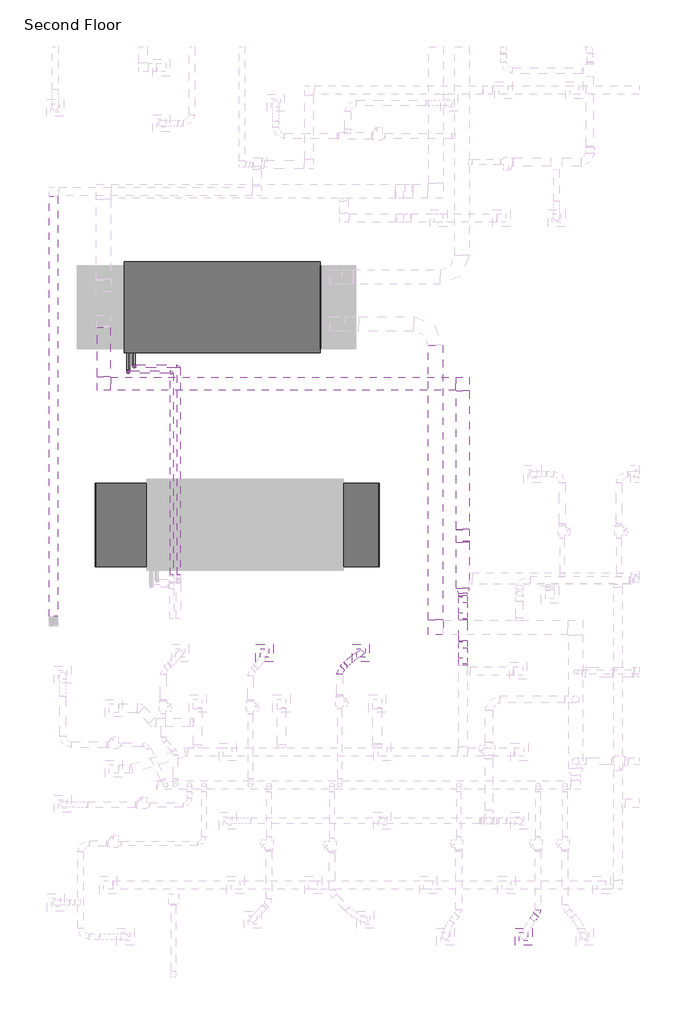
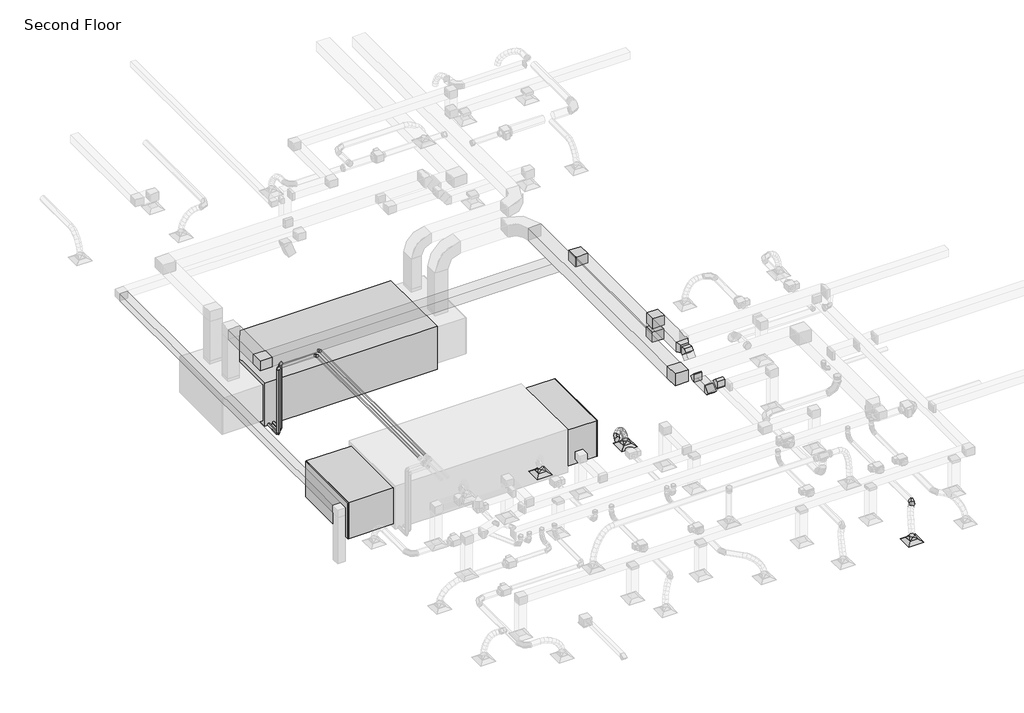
# One storey, part 7 of 44: 18 duct fittings, 17 duct segments, 8 pipe segments, 6 pipe fittings, 3 air terminals, 1 proxy.
"""IFC4 building model written with IfcOpenShell, lengths in millimetres."""

from ifc_helpers import new_model, si_unit, point, frame, frame_2d, origin, place, context, project, spatial, polyline, circle_curve, ellipse_curve, trimmed, segment, composite_curve, outline, extrude, transform, mapped, element, save
from ifc_brep_helpers import plane_surface, cylinder_surface, advanced_brep
from components import m_exhaust_grill_er_600_x_600_face_300_x_300_connection_ff221211, m_air_handling_unit_split_system_horizontal_300fd20e, m_rectangular_elbow_mitered_standard_b81e202c, m_rectangular_elbow_mitered_standard_083ec54f, m_rectangular_elbow_mitered_standard_5eef5ae8, m_rectangular_elbow_mitered_standard_115de672, m_rectangular_endcap_standard_3b5f437e, m_rectangular_takeoff_standard_6cf4a7e6, m_rectangular_transition_angle_45_degree_7c23efb6, m_rectangular_to_round_transition_angle_45_degree_60daae35, m_round_elbow_1_5_d_f3829448, m_round_elbow_1_5_d_143daf02, m_elbow_generic_standard_09f08a26

model = new_model("IFC4")

# Units and contexts
model_context = context("Model", 3, world=origin())
ifc_project = project(units=[si_unit("LENGTHUNIT", "METRE", prefix="MILLI")], contexts=[model_context])

# Site, building, storey
site = spatial("IfcSite", under=ifc_project)
building = spatial("IfcBuilding", under=site)
storey = spatial("IfcBuildingStorey", under=building, Name="Second Floor", Elevation=4570.0)

# Air terminals
placement = place(None, origin())
m_exhaust_grill_er_600_x_600_face_300_x_300_connection_shape = m_exhaust_grill_er_600_x_600_face_300_x_300_connection_ff221211(model_context)
element("IfcAirTerminal", 1, ObjectType="M_Supply Diffuser : SD-600 x 600 Face 300 x 300 Connection", at=placement, inside=storey, context=model_context, shape_type="MappedRepresentation", body=[
    mapped(m_exhaust_grill_er_600_x_600_face_300_x_300_connection_shape, transform((-29887.2412512, 10855.5728123, 7250.0), x_axis=(1.0, 0.0, 0.0), y_axis=(0.0, 1.0, 0.0), z_axis=(0.0, 0.0, 1.0))),
])
element("IfcAirTerminal", 2, ObjectType="M_Supply Diffuser : SD-600 x 600 Face 300 x 300 Connection", at=placement, inside=storey, context=model_context, shape_type="MappedRepresentation", body=[
    mapped(m_exhaust_grill_er_600_x_600_face_300_x_300_connection_shape, transform((-38933.7649638, 20757.586497, 7250.0), x_axis=(1.0, 0.0, 0.0), y_axis=(0.0, 1.0, 0.0), z_axis=(0.0, 0.0, 1.0))),
])
element("IfcAirTerminal", 3, ObjectType="M_Supply Diffuser : SD-600 x 600 Face 300 x 300 Connection", at=placement, inside=storey, context=model_context, shape_type="MappedRepresentation", body=[
    mapped(m_exhaust_grill_er_600_x_600_face_300_x_300_connection_shape, transform((-35569.287523, 20757.586497, 7250.0), x_axis=(1.0, 0.0, 0.0), y_axis=(0.0, 1.0, 0.0), z_axis=(0.0, 0.0, 1.0))),
])

# Proxy
m_air_handling_unit_split_system_horizontal_shape = m_air_handling_unit_split_system_horizontal_300fd20e(model_context)
element("IfcBuildingElementProxy", 4, Name="M_Air Handling Unit - Split System - Horizontal : 63300000 J", ObjectType="M_Air Handling Unit - Split System - Horizontal : 63300000 J", at=placement, inside=storey, context=model_context, shape_type="MappedRepresentation", body=[
    mapped(m_air_handling_unit_split_system_horizontal_shape, transform((-43838.6289987, 31241.3199771, 4570.0), x_axis=(1.0, 0.0, 0.0), y_axis=(0.0, 1.0, 0.0), z_axis=(0.0, 0.0, 1.0))),
])

# Duct fittings
m_rectangular_elbow_mitered_standard_shape = m_rectangular_elbow_mitered_standard_b81e202c(model_context)
element("IfcDuctFitting", 5, ObjectType="M_Rectangular Elbow - Mitered : Standard", at=placement, inside=storey, context=model_context, shape_type="MappedRepresentation", body=[
    mapped(m_rectangular_elbow_mitered_standard_shape, transform((-32006.4608066, 20420.6323311, 8820.0), x_axis=(0.0, 1.0, 0.0), y_axis=(0.0, 0.0, -1.0), z_axis=(-1.0, 0.0, 0.0))),
])
element("IfcDuctFitting", 6, ObjectType="M_Rectangular Elbow - Mitered : Standard", at=placement, inside=storey, context=model_context, shape_type="MappedRepresentation", body=[
    mapped(m_rectangular_elbow_mitered_standard_shape, transform((-32006.4608066, 21099.4548411, 8141.1774901), x_axis=(0.0, 0.7071067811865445, -0.7071067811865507), y_axis=(0.0, 0.7071067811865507, 0.7071067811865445), z_axis=(1.0, 0.0, 0.0))),
])
element("IfcDuctFitting", 7, ObjectType="M_Rectangular Elbow - Mitered : Standard", at=placement, inside=storey, context=model_context, shape_type="MappedRepresentation", body=[
    mapped(m_rectangular_elbow_mitered_standard_shape, transform((-32006.4608066, 21999.4548411, 8141.1774901), x_axis=(0.0, 1.0, 0.0), y_axis=(0.0, 0.0, 1.0), z_axis=(1.0, 0.0, 0.0))),
])
element("IfcDuctFitting", 8, ObjectType="M_Rectangular Elbow - Mitered : Standard", at=placement, inside=storey, context=model_context, shape_type="MappedRepresentation", body=[
    mapped(m_rectangular_elbow_mitered_standard_shape, transform((-32006.4608066, 22678.277351, 8820.0), x_axis=(0.0, 0.70710678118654, 0.7071067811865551), y_axis=(0.0, 0.7071067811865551, -0.70710678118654), z_axis=(-1.0, 0.0, 0.0))),
])
m_rectangular_elbow_mitered_standard_2_shape = m_rectangular_elbow_mitered_standard_083ec54f(model_context)
element("IfcDuctFitting", 9, ObjectType="M_Rectangular Elbow - Mitered : Standard", at=placement, inside=storey, context=model_context, shape_type="MappedRepresentation", body=[
    mapped(m_rectangular_elbow_mitered_standard_2_shape, transform((-32968.6463278, 21646.9458907, 8770.0), x_axis=(0.0, -1.0, 0.0), y_axis=(1.0, 0.0, 0.0), z_axis=(0.0, 0.0, 1.0))),
])
m_rectangular_elbow_mitered_standard_3_shape = m_rectangular_elbow_mitered_standard_5eef5ae8(model_context)
element("IfcDuctFitting", 10, ObjectType="M_Rectangular Elbow - Mitered : Standard", at=placement, inside=storey, context=model_context, shape_type="MappedRepresentation", body=[
    mapped(m_rectangular_elbow_mitered_standard_3_shape, transform((-32006.4608066, 24857.9226294, 8820.0), x_axis=(0.0, 1.0, 0.0), y_axis=(0.0, 0.0, -1.0), z_axis=(-1.0, 0.0, 0.0))),
])
element("IfcDuctFitting", 11, ObjectType="M_Rectangular Elbow - Mitered : Standard", at=placement, inside=storey, context=model_context, shape_type="MappedRepresentation", body=[
    mapped(m_rectangular_elbow_mitered_standard_3_shape, transform((-32006.4608066, 24857.9226294, 8220.0), x_axis=(0.0, 0.0, -1.0), y_axis=(0.0, 1.0, 0.0), z_axis=(1.0, 0.0, 0.0))),
])
m_rectangular_elbow_mitered_standard_4_shape = m_rectangular_elbow_mitered_standard_115de672(model_context)
element("IfcDuctFitting", 12, ObjectType="M_Rectangular Elbow - Mitered : Standard", at=placement, inside=storey, context=model_context, shape_type="MappedRepresentation", body=[
    mapped(m_rectangular_elbow_mitered_standard_4_shape, transform((-32006.4608066, 30157.9226294, 8220.0), x_axis=(0.0, 1.0, 0.0), y_axis=(-1.0, 0.0, 0.0), z_axis=(0.0, 0.0, 1.0))),
])
element("IfcDuctFitting", 13, ObjectType="M_Rectangular Elbow - Mitered : Standard", at=placement, inside=storey, context=model_context, shape_type="MappedRepresentation", body=[
    mapped(m_rectangular_elbow_mitered_standard_4_shape, transform((-44551.1307923, 30157.9226294, 8220.0), x_axis=(0.0, -1.0, 0.0), y_axis=(1.0, 0.0, 0.0), z_axis=(0.0, 0.0, 1.0))),
])
m_rectangular_endcap_standard_shape = m_rectangular_endcap_standard_3b5f437e(model_context)
element("IfcDuctFitting", 14, ObjectType="M_Rectangular Endcap : Standard", at=placement, inside=storey, context=model_context, shape_type="MappedRepresentation", body=[
    mapped(m_rectangular_endcap_standard_shape, transform((-34956.7539987, 25228.8199771, 5470.0), x_axis=(1.0, 0.0, 0.0), y_axis=(0.0, 1.0, 0.0), z_axis=(0.0, 0.0, 1.0))),
])
element("IfcDuctFitting", 15, ObjectType="M_Rectangular Endcap : Standard", at=placement, inside=storey, context=model_context, shape_type="MappedRepresentation", body=[
    mapped(m_rectangular_endcap_standard_shape, transform((-44818.6289987, 25228.8199771, 5470.0), x_axis=(-1.0, 0.0, 0.0), y_axis=(0.0, -1.0, 0.0), z_axis=(0.0, 0.0, 1.0))),
])
m_rectangular_takeoff_standard_shape = m_rectangular_takeoff_standard_6cf4a7e6(model_context)
element("IfcDuctFitting", 16, ObjectType="M_Rectangular Takeoff : Standard", at=placement, inside=storey, context=model_context, shape_type="MappedRepresentation", body=[
    mapped(m_rectangular_takeoff_standard_shape, transform((-43937.5515014, 25228.8199771, 4720.0), x_axis=(0.0, 0.0, -1.0), y_axis=(0.0, 1.0, 0.0), z_axis=(1.0, 0.0, 0.0))),
])
m_rectangular_transition_angle_45_degree_shape = m_rectangular_transition_angle_45_degree_7c23efb6(model_context)
element("IfcDuctFitting", 17, ObjectType="M_Rectangular Transition - Angle : 45 Degree", at=placement, inside=storey, context=model_context, shape_type="MappedRepresentation", body=[
    mapped(m_rectangular_transition_angle_45_degree_shape, transform((-32006.4608066, 23022.9226294, 8820.0), x_axis=(0.0, -1.0, 0.0), y_axis=(1.0, 0.0, 0.0), z_axis=(0.0, 0.0, 1.0))),
])
m_rectangular_to_round_transition_angle_45_degree_shape = m_rectangular_to_round_transition_angle_45_degree_60daae35(model_context)
element("IfcDuctFitting", 18, ObjectType="M_Rectangular to Round Transition - Angle : 45 Degree", at=placement, inside=storey, context=model_context, shape_type="MappedRepresentation", body=[
    mapped(m_rectangular_to_round_transition_angle_45_degree_shape, transform((-29887.2412512, 10855.5728123, 7351.6), x_axis=(0.0, 0.0, 1.0), y_axis=(1.0, 0.0, 0.0), z_axis=(0.0, 1.0, 0.0))),
])
element("IfcDuctFitting", 19, ObjectType="M_Rectangular to Round Transition - Angle : 45 Degree", at=placement, inside=storey, context=model_context, shape_type="MappedRepresentation", body=[
    mapped(m_rectangular_to_round_transition_angle_45_degree_shape, transform((-35569.287523, 20757.586497, 7351.6), x_axis=(0.0, 0.0, 1.0), y_axis=(1.0, 0.0, 0.0), z_axis=(0.0, 1.0, 0.0))),
])
element("IfcDuctFitting", 20, ObjectType="M_Rectangular to Round Transition - Angle : 45 Degree", at=placement, inside=storey, context=model_context, shape_type="MappedRepresentation", body=[
    mapped(m_rectangular_to_round_transition_angle_45_degree_shape, transform((-38933.7649638, 20757.586497, 7351.6), x_axis=(0.0, 0.0, 1.0), y_axis=(1.0, 0.0, 0.0), z_axis=(0.0, 1.0, 0.0))),
])
m_round_elbow_1_5_d_shape = m_round_elbow_1_5_d_f3829448(model_context)
element("IfcDuctFitting", 21, ObjectType="M_Round Elbow : 1.5 D", at=placement, inside=storey, context=model_context, shape_type="MappedRepresentation", body=[
    mapped(m_round_elbow_1_5_d_shape, transform((-36309.0180147, 20148.2342251, 8189.1), x_axis=(-0.7071067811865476, -0.7071067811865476, 0.0), y_axis=(0.7071067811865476, -0.7071067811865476, 0.0), z_axis=(0.0, 0.0, 1.0))),
])
m_round_elbow_1_5_d_2_shape = m_round_elbow_1_5_d_143daf02(model_context)
element("IfcDuctFitting", 22, ObjectType="M_Round Elbow : 1.5 D", at=placement, inside=storey, context=model_context, shape_type="MappedRepresentation", body=[
    mapped(m_round_elbow_1_5_d_2_shape, transform((-29388.5682282, 11691.8174916, 8189.1), x_axis=(0.6062629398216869, 0.7952642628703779, 0.0), y_axis=(-0.7952642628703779, 0.6062629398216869, 0.0), z_axis=(0.0, 0.0, 1.0))),
])

# Duct segments
element("IfcDuctSegment", 23, ObjectType="Flex - Round", at=placement, inside=storey, context=model_context, shape_type="AdvancedBrep", body=[
    advanced_brep(
    [(-36165.2524714, 20433.3458653, 8189.1), (-36107.2801338, 20350.6291315, 8090.1194462), (-36028.5194953, 20287.3866476, 8189.1), (-36086.4918328, 20370.1033814, 8288.0805538), (-36074.7350557, 20518.1415762, 8171.2528775), (-36027.6904004, 20425.1879109, 8074.426911), (-35941.7835558, 20368.6399135, 8171.9984629), (-35988.8282111, 20461.5935788, 8268.8244293), (-35630.6007373, 20836.5666738, 7470.630968), (-35491.0034706, 20818.6170502, 7484.4300314), (-35507.9743087, 20678.6063202, 7473.9903883), (-35647.5715753, 20696.5559438, 7460.1913249), (-35980.9364398, 20596.6706151, 8120.7614196), (-35952.9714755, 20487.7432622, 8034.2059823), (-35854.1298632, 20442.0243677, 8124.8147952), (-35882.0948276, 20550.9517206, 8211.3702325), (-35890.5947587, 20665.7056281, 8044.4130577), (-35876.6696116, 20546.0496839, 7969.7227643), (-35767.3988648, 20508.3002608, 8051.5178456), (-35781.3240119, 20627.9562049, 8126.208139), (-35807.6564266, 20724.4503119, 7947.9587637), (-35804.20186, 20597.3781233, 7885.4453784), (-35686.2227288, 20565.7967925, 7957.1129221), (-35689.6772955, 20692.868981, 8019.6263074), (-35736.1385506, 20771.9546572, 7836.9448154), (-35740.8131085, 20639.4828573, 7787.0499006), (-35615.1629306, 20612.9968688, 7846.810027), (-35610.4883727, 20745.4686687, 7896.7049418), (-35680.1343486, 20807.162247, 7716.9220912), (-35691.2861917, 20670.6184384, 7680.9086601), (-35558.7048346, 20648.4898034, 7725.8145618), (-35547.5529915, 20785.0336121, 7761.8279929), (-35643.7250574, 20828.9922846, 7593.549584), (-35659.7161456, 20689.5469939, 7573.933885), (-35521.3457866, 20670.8892897, 7599.2238136), (-35505.3546984, 20810.3345804, 7618.8395126)],
    [
        (0, 1, circle_curve(frame((-36096.8859833, 20360.3662565, 8189.1), z_axis=(-0.7223562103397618, -0.676695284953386, 0.14242540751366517), x_axis=(-0.6836648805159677, 0.7297960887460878, 0.0)), 100.0)),
        (1, 2, circle_curve(frame((-36096.8859833, 20360.3662565, 8189.1), z_axis=(-0.7223562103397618, -0.676695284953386, 0.14242540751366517), x_axis=(-0.6836648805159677, 0.7297960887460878, 0.0)), 100.0)),
        (2, 3, circle_curve(frame((-36096.8859833, 20360.3662565, 8189.1), z_axis=(-0.7223562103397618, -0.676695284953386, 0.14242540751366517), x_axis=(-0.6836648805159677, 0.7297960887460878, 0.0)), 100.0)),
        (3, 0, circle_curve(frame((-36096.8859833, 20360.3662565, 8189.1), z_axis=(-0.7223562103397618, -0.676695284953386, 0.14242540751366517), x_axis=(-0.6836648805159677, 0.7297960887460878, 0.0)), 100.0)),
        (0, 4),
        (4, 5, ellipse_curve(frame((-36008.2593058, 20443.3907449, 8171.6256702), z_axis=(-0.7213790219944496, -0.640203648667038, 0.26410527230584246), x_axis=(-0.05362156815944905, -0.3285789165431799, -0.9429531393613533)), 100.8134935, 100.0)),
        (5, 1),
        (5, 6, ellipse_curve(frame((-36008.2593058, 20443.3907449, 8171.6256702), z_axis=(-0.7213790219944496, -0.640203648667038, 0.26410527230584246), x_axis=(-0.05362156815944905, -0.3285789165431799, -0.9429531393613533)), 100.8134935, 100.0)),
        (6, 2),
        (6, 7, ellipse_curve(frame((-36008.2593058, 20443.3907449, 8171.6256702), z_axis=(-0.7213790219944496, -0.640203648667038, 0.26410527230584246), x_axis=(-0.05362156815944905, -0.3285789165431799, -0.9429531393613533)), 100.8134935, 100.0)),
        (7, 3),
        (7, 4, ellipse_curve(frame((-36008.2593058, 20443.3907449, 8171.6256702), z_axis=(-0.7213790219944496, -0.640203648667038, 0.26410527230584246), x_axis=(-0.05362156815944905, -0.3285789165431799, -0.9429531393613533)), 100.8134935, 100.0)),
        (8, 9, circle_curve(frame((-35569.287523, 20757.586497, 7472.3106781), z_axis=(0.10597023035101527, 0.061158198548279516, -0.992486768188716), x_axis=(-0.6131321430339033, 0.7898017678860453, -0.01679710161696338)), 100.0)),
        (9, 10, circle_curve(frame((-35569.287523, 20757.586497, 7472.3106781), z_axis=(0.10597023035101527, 0.061158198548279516, -0.992486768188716), x_axis=(-0.6131321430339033, 0.7898017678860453, -0.01679710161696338)), 100.0)),
        (10, 11, circle_curve(frame((-35569.287523, 20757.586497, 7472.3106781), z_axis=(0.10597023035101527, 0.061158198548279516, -0.992486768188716), x_axis=(-0.6131321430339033, 0.7898017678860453, -0.01679710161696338)), 100.0)),
        (11, 8, circle_curve(frame((-35569.287523, 20757.586497, 7472.3106781), z_axis=(0.10597023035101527, 0.061158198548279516, -0.992486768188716), x_axis=(-0.6131321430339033, 0.7898017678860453, -0.01679710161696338)), 100.0)),
        (4, 12),
        (12, 13, ellipse_curve(frame((-35917.5331515, 20519.3474914, 8122.7881074), z_axis=(-0.6877674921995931, -0.5515845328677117, 0.4719431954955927), x_axis=(-0.24153055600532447, -0.43920723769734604, -0.8653091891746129)), 100.5208679, 100.0)),
        (13, 5),
        (13, 14, ellipse_curve(frame((-35917.5331515, 20519.3474914, 8122.7881074), z_axis=(-0.6877674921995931, -0.5515845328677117, 0.4719431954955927), x_axis=(-0.24153055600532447, -0.43920723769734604, -0.8653091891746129)), 100.5208679, 100.0)),
        (14, 6),
        (14, 15, ellipse_curve(frame((-35917.5331515, 20519.3474914, 8122.7881074), z_axis=(-0.6877674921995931, -0.5515845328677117, 0.4719431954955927), x_axis=(-0.24153055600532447, -0.43920723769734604, -0.8653091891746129)), 100.5208679, 100.0)),
        (15, 7),
        (15, 12, ellipse_curve(frame((-35917.5331515, 20519.3474914, 8122.7881074), z_axis=(-0.6877674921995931, -0.5515845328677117, 0.4719431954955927), x_axis=(-0.24153055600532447, -0.43920723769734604, -0.8653091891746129)), 100.5208679, 100.0)),
        (12, 16),
        (16, 17, ellipse_curve(frame((-35828.9968118, 20587.0029444, 8047.9654516), z_axis=(-0.628056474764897, -0.4633396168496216, 0.6251891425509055), x_axis=(-0.39829123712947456, -0.4987947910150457, -0.769784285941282)), 100.363452, 100.0)),
        (17, 13),
        (17, 18, ellipse_curve(frame((-35828.9968118, 20587.0029444, 8047.9654516), z_axis=(-0.628056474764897, -0.4633396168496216, 0.6251891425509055), x_axis=(-0.39829123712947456, -0.4987947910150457, -0.769784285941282)), 100.363452, 100.0)),
        (18, 14),
        (18, 19, ellipse_curve(frame((-35828.9968118, 20587.0029444, 8047.9654516), z_axis=(-0.628056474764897, -0.4633396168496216, 0.6251891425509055), x_axis=(-0.39829123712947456, -0.4987947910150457, -0.769784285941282)), 100.363452, 100.0)),
        (19, 15),
        (19, 16, ellipse_curve(frame((-35828.9968118, 20587.0029444, 8047.9654516), z_axis=(-0.628056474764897, -0.4633396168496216, 0.6251891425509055), x_axis=(-0.39829123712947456, -0.4987947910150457, -0.769784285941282)), 100.363452, 100.0)),
        (16, 20),
        (20, 21, ellipse_curve(frame((-35746.9395777, 20645.1235522, 7952.5358429), z_axis=(-0.5524071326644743, -0.3800054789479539, 0.7419179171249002), x_axis=(-0.533175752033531, -0.5230887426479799, -0.6649073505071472)), 100.29928, 100.0)),
        (21, 17),
        (21, 22, ellipse_curve(frame((-35746.9395777, 20645.1235522, 7952.5358429), z_axis=(-0.5524071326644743, -0.3800054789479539, 0.7419179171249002), x_axis=(-0.533175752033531, -0.5230887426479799, -0.6649073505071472)), 100.29928, 100.0)),
        (22, 18),
        (22, 23, ellipse_curve(frame((-35746.9395777, 20645.1235522, 7952.5358429), z_axis=(-0.5524071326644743, -0.3800054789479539, 0.7419179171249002), x_axis=(-0.533175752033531, -0.5230887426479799, -0.6649073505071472)), 100.29928, 100.0)),
        (23, 19),
        (23, 20, ellipse_curve(frame((-35746.9395777, 20645.1235522, 7952.5358429), z_axis=(-0.5524071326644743, -0.3800054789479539, 0.7419179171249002), x_axis=(-0.533175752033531, -0.5230887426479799, -0.6649073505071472)), 100.29928, 100.0)),
        (20, 24),
        (24, 25, ellipse_curve(frame((-35675.6507406, 20692.475763, 7841.8774212), z_axis=(-0.46051281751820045, -0.2985966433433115, 0.83592343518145), x_axis=(-0.6511971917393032, -0.526314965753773, -0.5467492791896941)), 100.301743, 100.0)),
        (25, 21),
        (25, 26, ellipse_curve(frame((-35675.6507406, 20692.475763, 7841.8774212), z_axis=(-0.46051281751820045, -0.2985966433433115, 0.83592343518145), x_axis=(-0.6511971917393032, -0.526314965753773, -0.5467492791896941)), 100.301743, 100.0)),
        (26, 22),
        (26, 27, ellipse_curve(frame((-35675.6507406, 20692.475763, 7841.8774212), z_axis=(-0.46051281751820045, -0.2985966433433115, 0.83592343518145), x_axis=(-0.6511971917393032, -0.526314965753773, -0.5467492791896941)), 100.301743, 100.0)),
        (27, 23),
        (27, 24, ellipse_curve(frame((-35675.6507406, 20692.475763, 7841.8774212), z_axis=(-0.46051281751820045, -0.2985966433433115, 0.83592343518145), x_axis=(-0.6511971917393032, -0.526314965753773, -0.5467492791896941)), 100.301743, 100.0)),
        (24, 28),
        (28, 29, ellipse_curve(frame((-35619.4195916, 20727.8260252, 7721.3683265), z_axis=(-0.345139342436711, -0.21290166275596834, 0.914085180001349), x_axis=(-0.7520789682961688, -0.5199059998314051, -0.40506169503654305)), 100.3732416, 100.0)),
        (29, 25),
        (29, 30, ellipse_curve(frame((-35619.4195916, 20727.8260252, 7721.3683265), z_axis=(-0.345139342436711, -0.21290166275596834, 0.914085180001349), x_axis=(-0.7520789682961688, -0.5199059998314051, -0.40506169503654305)), 100.3732416, 100.0)),
        (30, 26),
        (30, 31, ellipse_curve(frame((-35619.4195916, 20727.8260252, 7721.3683265), z_axis=(-0.345139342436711, -0.21290166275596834, 0.914085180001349), x_axis=(-0.7520789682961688, -0.5199059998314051, -0.40506169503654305)), 100.3732416, 100.0)),
        (31, 27),
        (31, 28, ellipse_curve(frame((-35619.4195916, 20727.8260252, 7721.3683265), z_axis=(-0.345139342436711, -0.21290166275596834, 0.914085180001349), x_axis=(-0.7520789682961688, -0.5199059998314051, -0.40506169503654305)), 100.3732416, 100.0)),
        (28, 32),
        (32, 33, ellipse_curve(frame((-35582.535422, 20749.9407871, 7596.3866988), z_axis=(-0.1935678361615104, -0.11486223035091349, 0.9743398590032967), x_axis=(-0.8305750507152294, -0.5094050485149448, -0.2250590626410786)), 100.547318, 100.0)),
        (33, 29),
        (33, 34, ellipse_curve(frame((-35582.535422, 20749.9407871, 7596.3866988), z_axis=(-0.1935678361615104, -0.11486223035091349, 0.9743398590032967), x_axis=(-0.8305750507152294, -0.5094050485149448, -0.2250590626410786)), 100.547318, 100.0)),
        (34, 30),
        (34, 35, ellipse_curve(frame((-35582.535422, 20749.9407871, 7596.3866988), z_axis=(-0.1935678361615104, -0.11486223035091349, 0.9743398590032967), x_axis=(-0.8305750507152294, -0.5094050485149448, -0.2250590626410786)), 100.547318, 100.0)),
        (35, 31),
        (35, 32, ellipse_curve(frame((-35582.535422, 20749.9407871, 7596.3866988), z_axis=(-0.1935678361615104, -0.11486223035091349, 0.9743398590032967), x_axis=(-0.8305750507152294, -0.5094050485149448, -0.2250590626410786)), 100.547318, 100.0)),
        (32, 8),
        (11, 33),
        (10, 34),
        (9, 35),
    ],
    [
        plane_surface(frame((-36096.8859833, 20380.9622146, 8286.9560499), z_axis=(-0.722356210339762, -0.6766952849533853, 0.14242540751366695), x_axis=(0.6915211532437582, -0.7068692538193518, 0.1487761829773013))),
        cylinder_surface(frame((-36096.8859833, 20360.3662565, 8189.1), z_axis=(-0.7223562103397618, -0.676695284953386, 0.14242540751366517), x_axis=(-0.6836648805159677, 0.7297960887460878, 0.0)), 100.0),
        plane_surface(frame((-35569.287523, 20857.3971776, 7478.4611293), z_axis=(0.1059702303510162, 0.06115819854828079, -0.992486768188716), x_axis=(0.9943693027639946, -0.0065176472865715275, 0.1057696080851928))),
        cylinder_surface(frame((-36008.2593058, 20443.3907449, 8171.6256702), z_axis=(-0.7087597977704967, -0.5933800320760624, 0.38152285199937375), x_axis=(-0.6462059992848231, 0.7630397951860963, -0.013714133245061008)), 100.0),
        cylinder_surface(frame((-35917.5331515, 20519.3474914, 8122.7881074), z_axis=(-0.6596475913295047, -0.5040727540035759, 0.5574726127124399), x_axis=(-0.6227032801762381, 0.7818888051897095, -0.029841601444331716)), 100.0),
        cylinder_surface(frame((-35828.9968118, 20587.0029444, 8047.9654516), z_axis=(-0.5919165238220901, -0.41925064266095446, 0.6883776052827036), x_axis=(-0.6099460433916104, 0.7913002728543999, -0.04254059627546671)), 100.0),
        cylinder_surface(frame((-35746.9395777, 20645.1235522, 7952.5358429), z_axis=(-0.5096011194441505, -0.3384925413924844, 0.7910306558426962), x_axis=(-0.6047771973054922, 0.7948559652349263, -0.04948268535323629)), 100.0),
        cylinder_surface(frame((-35675.6507406, 20692.475763, 7841.8774212), z_axis=(-0.40865374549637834, -0.25690417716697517, 0.8757867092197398), x_axis=(-0.6049590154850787, 0.7947380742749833, -0.049152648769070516)), 100.0),
        cylinder_surface(frame((-35619.4195916, 20727.8260252, 7721.3683265), z_axis=(-0.2790581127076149, -0.16731578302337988, 0.9455855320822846), x_axis=(-0.6086420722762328, 0.7924661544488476, -0.03939824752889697)), 100.0),
        cylinder_surface(frame((-35582.535422, 20749.9407871, 7596.3866988), z_axis=(-0.10597023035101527, -0.061158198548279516, 0.992486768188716), x_axis=(-0.6131321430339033, 0.7898017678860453, -0.01679710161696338)), 100.0),
    ],
    [
        (0, [[1, 2, 3, 4]]),
        (1, [[-1, 5, 6, 7]]),
        (1, [[-2, -7, 8, 9]]),
        (1, [[-3, -9, 10, 11]]),
        (1, [[-4, -11, 12, -5]]),
        (2, [[13, 14, 15, 16]]),
        (3, [[-6, 17, 18, 19]]),
        (3, [[-8, -19, 20, 21]]),
        (3, [[-10, -21, 22, 23]]),
        (3, [[-12, -23, 24, -17]]),
        (4, [[-18, 25, 26, 27]]),
        (4, [[-20, -27, 28, 29]]),
        (4, [[-22, -29, 30, 31]]),
        (4, [[-24, -31, 32, -25]]),
        (5, [[-26, 33, 34, 35]]),
        (5, [[-28, -35, 36, 37]]),
        (5, [[-30, -37, 38, 39]]),
        (5, [[-32, -39, 40, -33]]),
        (6, [[-34, 41, 42, 43]]),
        (6, [[-36, -43, 44, 45]]),
        (6, [[-38, -45, 46, 47]]),
        (6, [[-40, -47, 48, -41]]),
        (7, [[-42, 49, 50, 51]]),
        (7, [[-44, -51, 52, 53]]),
        (7, [[-46, -53, 54, 55]]),
        (7, [[-48, -55, 56, -49]]),
        (8, [[-50, 57, 58, 59]]),
        (8, [[-52, -59, 60, 61]]),
        (8, [[-54, -61, 62, 63]]),
        (8, [[-56, -63, 64, -57]]),
        (9, [[-58, 65, -16, 66]]),
        (9, [[-60, -66, -15, 67]]),
        (9, [[-62, -67, -14, 68]]),
        (9, [[-64, -68, -13, -65]]),
    ],
),
])
element("IfcDuctSegment", 24, ObjectType="Mitered Elbows / Taps", at=placement, inside=storey, context=model_context, shape_type="SweptSolid", body=[
    extrude(outline(polyline([(-36176.7539987, 23778.8199771), (-36176.7539987, 26678.8199771), (-34956.7539987, 26678.8199771), (-34956.7539987, 23778.8199771), (-36176.7539987, 23778.8199771)])), frame((0.0, 0.0, 4720.0), z_axis=(0.0, 0.0, 1.0), x_axis=(1.0, 0.0, 0.0)), (0.0, 0.0, 1.0), 1500.0),
])
element("IfcDuctSegment", 25, ObjectType="Mitered Elbows / Taps", at=placement, inside=storey, context=model_context, shape_type="SweptSolid", body=[
    extrude(outline(polyline([(-31781.4608066, 23022.9226294), (-32231.4608066, 23022.9226294), (-32231.4608066, 24632.9226294), (-31781.4608066, 24632.9226294), (-31781.4608066, 23022.9226294)])), frame((0.0, 0.0, 8620.0), z_axis=(0.0, 0.0, 1.0), x_axis=(1.0, 0.0, 0.0)), (0.0, 0.0, 1.0), 400.0),
])
element("IfcDuctSegment", 26, ObjectType="Mitered Elbows / Taps", at=placement, inside=storey, context=model_context, shape_type="SweptSolid", body=[
    extrude(outline(polyline([(0.0, -300.0), (0.0, 0.0), (785.7359314, 0.0), (785.7359314, -300.0), (0.0, -300.0)])), frame((-32156.4608066, 20376.1779663, 8652.3223305), z_axis=(0.0, 0.7071067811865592, 0.7071067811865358), x_axis=(0.0, 0.7071067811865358, -0.7071067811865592)), (0.0, 0.0, 1.0), 300.0),
])
element("IfcDuctSegment", 27, ObjectType="Mitered Elbows / Taps", at=placement, inside=storey, context=model_context, shape_type="SweptSolid", body=[
    extrude(outline(polyline([(-31856.4608066, 21186.5868754), (-32156.4608066, 21186.5868754), (-32156.4608066, 21912.3228067), (-31856.4608066, 21912.3228067), (-31856.4608066, 21186.5868754)])), frame((0.0, 0.0, 7991.1774901), z_axis=(0.0, 0.0, 1.0), x_axis=(1.0, 0.0, 0.0)), (0.0, 0.0, 1.0), 300.0),
])
element("IfcDuctSegment", 28, ObjectType="Mitered Elbows / Taps", at=placement, inside=storey, context=model_context, shape_type="SweptSolid", body=[
    extrude(outline(polyline([(-150.0, 362.1320344), (150.0, 362.1320344), (150.0, 62.1320344), (-150.0, 62.1320344), (-150.0, 362.1320344)])), frame((-32006.4608066, 21911.0664934, 8352.7891424), z_axis=(0.0, 0.707106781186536, 0.707106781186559), x_axis=(1.0, 0.0, 0.0)), (0.0, 0.0, 1.0), 785.7359313),
])
element("IfcDuctSegment", 29, ObjectType="Mitered Elbows / Taps", at=placement, inside=storey, context=model_context, shape_type="SweptSolid", body=[
    extrude(outline(polyline([(-32156.4608066, 22841.8566122), (-31856.4608066, 22841.8566122), (-31856.4608066, 22765.4093854), (-32156.4608066, 22765.4093854), (-32156.4608066, 22841.8566122)])), frame((0.0, 0.0, 8670.0), z_axis=(0.0, 0.0, 1.0), x_axis=(1.0, 0.0, 0.0)), (0.0, 0.0, 1.0), 300.0),
])
element("IfcDuctSegment", 30, ObjectType="Mitered Elbows / Taps", at=placement, inside=storey, context=model_context, shape_type="SweptSolid", body=[
    extrude(outline(polyline([(-31781.4608066, 25082.9226294), (-32231.4608066, 25082.9226294), (-32231.4608066, 29907.9226294), (-31781.4608066, 29907.9226294), (-31781.4608066, 25082.9226294)])), frame((0.0, 0.0, 8020.0), z_axis=(0.0, 0.0, 1.0), x_axis=(1.0, 0.0, 0.0)), (0.0, 0.0, 1.0), 400.0),
])
element("IfcDuctSegment", 31, ObjectType="Mitered Elbows / Taps", at=placement, inside=storey, context=model_context, shape_type="SweptSolid", body=[
    extrude(outline(polyline([(-32231.4608066, 24657.9226294), (-32231.4608066, 25057.9226294), (-31781.4608066, 25057.9226294), (-31781.4608066, 24657.9226294), (-32231.4608066, 24657.9226294)])), frame((0.0, 0.0, 8445.0), z_axis=(0.0, 0.0, 1.0), x_axis=(1.0, 0.0, 0.0)), (0.0, 0.0, 1.0), 150.0),
])
element("IfcDuctSegment", 32, ObjectType="Mitered Elbows / Taps", at=placement, inside=storey, context=model_context, shape_type="SweptSolid", body=[
    extrude(outline(polyline([(-32256.4608066, 30382.9226294), (-32256.4608066, 29932.9226294), (-44301.1307923, 29932.9226294), (-44301.1307923, 30382.9226294), (-32256.4608066, 30382.9226294)])), frame((0.0, 0.0, 8020.0), z_axis=(0.0, 0.0, 1.0), x_axis=(1.0, 0.0, 0.0)), (0.0, 0.0, 1.0), 400.0),
])
element("IfcDuctSegment", 33, ObjectType="Mitered Elbows / Taps", at=placement, inside=storey, context=model_context, shape_type="SweptSolid", body=[
    extrude(outline(polyline([(-44326.1307923, 30407.9226294), (-44776.1307923, 30407.9226294), (-44776.1307923, 32132.9226294), (-44326.1307923, 32132.9226294), (-44326.1307923, 30407.9226294)])), frame((0.0, 0.0, 8020.0), z_axis=(0.0, 0.0, 1.0), x_axis=(1.0, 0.0, 0.0)), (0.0, 0.0, 1.0), 400.0),
])
element("IfcDuctSegment", 34, ObjectType="Mitered Elbows / Taps", at=placement, inside=storey, context=model_context, shape_type="SweptSolid", body=[
    extrude(outline(polyline([(0.0, -300.0), (0.0, 0.0), (14662.559668, 0.0), (14662.559668, -300.0), (0.0, -300.0)])), frame((-46447.5612377, 22038.8565919, 7440.5382387), z_axis=(0.0, 2.463039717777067e-06, 0.9999999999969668), x_axis=(0.0, 0.9999999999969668, -2.463039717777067e-06)), (0.0, 0.0, 1.0), 300.0),
])
element("IfcDuctSegment", 35, ObjectType="Mitered Elbows / Tees", at=placement, inside=storey, context=model_context, shape_type="SweptSolid", body=[
    extrude(outline(polyline([(-44187.5515014, 25678.8199771), (-43687.5515014, 25678.8199771), (-43687.5515014, 24778.8199771), (-44187.5515014, 24778.8199771), (-44187.5515014, 25678.8199771)])), frame((0.0, 0.0, 4274.9984493), z_axis=(0.0, 0.0, 1.0), x_axis=(1.0, 0.0, 0.0)), (0.0, 0.0, 1.0), 220.0015507),
])
element("IfcDuctSegment", 36, ObjectType="Radius Elbows / Taps", at=placement, inside=storey, context=model_context, shape_type="SweptSolid", body=[
    extrude(outline(polyline([(-43038.6289987, 26678.8199771), (-43038.6289987, 23778.8199771), (-44818.6289987, 23778.8199771), (-44818.6289987, 26678.8199771), (-43038.6289987, 26678.8199771)])), frame((0.0, 0.0, 4720.0), z_axis=(0.0, 0.0, 1.0), x_axis=(1.0, 0.0, 0.0)), (0.0, 0.0, 1.0), 1500.0),
])
element("IfcDuctSegment", 37, ObjectType="Radius Elbows / Taps", at=placement, inside=storey, context=model_context, shape_type="SweptSolid", body=[
    extrude(outline(polyline([(-32718.6463278, 21921.9458907), (-33218.6463278, 21921.9458907), (-33218.6463278, 31496.9458907), (-32718.6463278, 31496.9458907), (-32718.6463278, 21921.9458907)])), frame((0.0, 0.0, 8520.0), z_axis=(0.0, 0.0, 1.0), x_axis=(1.0, 0.0, 0.0)), (0.0, 0.0, 1.0), 500.0),
])
element("IfcDuctSegment", 38, ObjectType="Taps", at=placement, inside=storey, context=model_context, shape_type="SweptSolid", body=[
    extrude(outline(composite_curve([segment(trimmed(circle_curve(frame_2d((0.0, -100.0)), 100.0), [point((-99.9999999, -100.0))], [point((0.0, 0.0))], False, "CARTESIAN"), True, "CONTINUOUS"), segment(trimmed(circle_curve(frame_2d((0.0, -100.0)), 100.0), [point((0.0, 0.0))], [point((100.0, -100.0))], False, "CARTESIAN"), True, "CONTINUOUS"), segment(trimmed(circle_curve(frame_2d((0.0, -100.0)), 100.0), [point((100.0, -100.0))], [point((0.0, -200.0))], False, "CARTESIAN"), True, "CONTINUOUS"), segment(trimmed(circle_curve(frame_2d((0.0, -100.0)), 100.0), [point((0.0, -200.0))], [point((-99.9999999, -100.0))], False, "CARTESIAN"), True, "CONTINUOUS")], self_intersect=False)), frame((-29579.7229679, 11441.070624, 8089.1), z_axis=(0.6062629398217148, 0.7952642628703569, 0.0), x_axis=(0.7952642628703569, -0.6062629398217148, 0.0)), (0.0, 0.0, 1.0), 213.9896899),
])
element("IfcDuctSegment", 39, ObjectType="Taps", at=placement, inside=storey, context=model_context, shape_type="SweptSolid", body=[
    extrude(outline(composite_curve([segment(trimmed(circle_curve(frame_2d((0.0, 100.0)), 100.0), [point((100.0, 100.0))], [point((0.0, 0.0))], False, "CARTESIAN"), True, "CONTINUOUS"), segment(trimmed(circle_curve(frame_2d((0.0, 100.0)), 100.0), [point((0.0, 0.0))], [point((-100.0, 100.0))], False, "CARTESIAN"), True, "CONTINUOUS"), segment(trimmed(circle_curve(frame_2d((0.0, 100.0)), 100.0), [point((-100.0, 100.0))], [point((0.0, 200.0))], False, "CARTESIAN"), True, "CONTINUOUS"), segment(trimmed(circle_curve(frame_2d((0.0, 100.0)), 100.0), [point((0.0, 200.0))], [point((100.0, 100.0))], False, "CARTESIAN"), True, "CONTINUOUS")], self_intersect=False)), frame((-36221.1500491, 20236.1021907, 8289.1), z_axis=(0.7071067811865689, 0.7071067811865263, 0.0), x_axis=(0.7071067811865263, -0.7071067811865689, 0.0)), (0.0, 0.0, 1.0), 175.7359271),
])

# Pipe fittings
m_elbow_generic_standard_shape = m_elbow_generic_standard_09f08a26(model_context)
element("IfcPipeFitting", 40, ObjectType="M_Elbow - Generic : Standard", at=placement, inside=storey, context=model_context, shape_type="MappedRepresentation", body=[
    mapped(m_elbow_generic_standard_shape, transform((-42173.6892157, 30569.7840993, 7380.0), x_axis=(0.0, 1.0, 0.0), y_axis=(-1.0, 0.0, 0.0), z_axis=(0.0, 0.0, 1.0))),
])
element("IfcPipeFitting", 41, ObjectType="M_Elbow - Generic : Standard", at=placement, inside=storey, context=model_context, shape_type="MappedRepresentation", body=[
    mapped(m_elbow_generic_standard_shape, transform((-43692.5789987, 30569.7840993, 7380.0), x_axis=(-1.0, 0.0, 0.0), y_axis=(0.0, 0.0, -1.0), z_axis=(0.0, -1.0, 0.0))),
])
element("IfcPipeFitting", 42, ObjectType="M_Elbow - Generic : Standard", at=placement, inside=storey, context=model_context, shape_type="MappedRepresentation", body=[
    mapped(m_elbow_generic_standard_shape, transform((-43692.5789987, 30569.7840993, 4608.1), x_axis=(0.0, 0.0, -1.0), y_axis=(0.0, 1.0, 0.0), z_axis=(1.0, 0.0, 0.0))),
])
element("IfcPipeFitting", 43, ObjectType="M_Elbow - Generic : Standard", at=placement, inside=storey, context=model_context, shape_type="MappedRepresentation", body=[
    mapped(m_elbow_generic_standard_shape, transform((-41933.6892157, 30769.0755539, 7380.0), x_axis=(0.0, 1.0, 0.0), y_axis=(-1.0, 0.0, 0.0), z_axis=(0.0, 0.0, 1.0))),
])
element("IfcPipeFitting", 44, ObjectType="M_Elbow - Generic : Standard", at=placement, inside=storey, context=model_context, shape_type="MappedRepresentation", body=[
    mapped(m_elbow_generic_standard_shape, transform((-43492.2289987, 30769.0755539, 7380.0), x_axis=(-1.0, 0.0, 0.0), y_axis=(0.0, 0.0, -1.0), z_axis=(0.0, -1.0, 0.0))),
])
element("IfcPipeFitting", 45, ObjectType="M_Elbow - Generic : Standard", at=placement, inside=storey, context=model_context, shape_type="MappedRepresentation", body=[
    mapped(m_elbow_generic_standard_shape, transform((-43492.2289987, 30769.0755539, 4608.1), x_axis=(0.0, 0.0, -1.0), y_axis=(0.0, 1.0, 0.0), z_axis=(1.0, 0.0, 0.0))),
])

# Pipe segments
element("IfcPipeSegment", 46, ObjectType="Standard", at=placement, inside=storey, context=model_context, shape_type="SweptSolid", body=[
    extrude(outline(composite_curve([segment(trimmed(circle_curve(frame_2d((7380.0, -42173.6892157)), 50.8), [point((7380.0, -42122.8892157))], [point((7430.8, -42173.6892157))], False, "CARTESIAN"), True, "CONTINUOUS"), segment(trimmed(circle_curve(frame_2d((7380.0, -42173.6892157)), 50.8), [point((7430.8, -42173.6892157))], [point((7380.0, -42224.4892157))], False, "CARTESIAN"), True, "CONTINUOUS"), segment(trimmed(circle_curve(frame_2d((7380.0, -42173.6892157)), 50.8), [point((7380.0, -42224.4892157))], [point((7329.2, -42173.6892157))], False, "CARTESIAN"), True, "CONTINUOUS"), segment(trimmed(circle_curve(frame_2d((7380.0, -42173.6892157)), 50.8), [point((7329.2, -42173.6892157))], [point((7380.0, -42122.8892157))], False, "CARTESIAN"), True, "CONTINUOUS")], self_intersect=False)), frame((0.0, 23489.4387271, 0.0), z_axis=(0.0, 1.0, 0.0), x_axis=(0.0, 0.0, 1.0)), (0.0, 0.0, 1.0), 7021.6078721),
])
element("IfcPipeSegment", 47, ObjectType="Standard", at=placement, inside=storey, context=model_context, shape_type="SweptSolid", body=[
    extrude(outline(composite_curve([segment(trimmed(circle_curve(frame_2d((30569.7840993, 7380.0)), 50.8), [point((30620.5840993, 7380.0))], [point((30569.7840993, 7329.2))], False, "CARTESIAN"), True, "CONTINUOUS"), segment(trimmed(circle_curve(frame_2d((30569.7840993, 7380.0)), 50.8), [point((30569.7840993, 7329.2))], [point((30518.9840993, 7380.0))], False, "CARTESIAN"), True, "CONTINUOUS"), segment(trimmed(circle_curve(frame_2d((30569.7840993, 7380.0)), 50.8), [point((30518.9840993, 7380.0))], [point((30569.7840993, 7430.8))], False, "CARTESIAN"), True, "CONTINUOUS"), segment(trimmed(circle_curve(frame_2d((30569.7840993, 7380.0)), 50.8), [point((30569.7840993, 7430.8))], [point((30620.5840993, 7380.0))], False, "CARTESIAN"), True, "CONTINUOUS")], self_intersect=False)), frame((-43633.8414987, 0.0, 0.0), z_axis=(1.0, 0.0, 0.0), x_axis=(0.0, 1.0, 0.0)), (0.0, 0.0, 1.0), 1401.4147831),
])
element("IfcPipeSegment", 48, ObjectType="Standard", at=placement, inside=storey, context=model_context, shape_type="SweptSolid", body=[
    extrude(outline(composite_curve([segment(trimmed(circle_curve(frame_2d((-43692.5789987, 30569.7840993)), 50.8), [point((-43641.7789987, 30569.7840993))], [point((-43692.5789987, 30518.9840993))], False, "CARTESIAN"), True, "CONTINUOUS"), segment(trimmed(circle_curve(frame_2d((-43692.5789987, 30569.7840993)), 50.8), [point((-43692.5789987, 30518.9840993))], [point((-43743.3789987, 30569.7840993))], False, "CARTESIAN"), True, "CONTINUOUS"), segment(trimmed(circle_curve(frame_2d((-43692.5789987, 30569.7840993)), 50.8), [point((-43743.3789987, 30569.7840993))], [point((-43692.5789987, 30620.5840993))], False, "CARTESIAN"), True, "CONTINUOUS"), segment(trimmed(circle_curve(frame_2d((-43692.5789987, 30569.7840993)), 50.8), [point((-43692.5789987, 30620.5840993))], [point((-43641.7789987, 30569.7840993))], False, "CARTESIAN"), True, "CONTINUOUS")], self_intersect=False)), frame((0.0, 0.0, 4666.8375), z_axis=(0.0, 0.0, 1.0), x_axis=(1.0, 0.0, 0.0)), (0.0, 0.0, 1.0), 2654.425),
])
element("IfcPipeSegment", 49, ObjectType="Standard", at=placement, inside=storey, context=model_context, shape_type="SweptSolid", body=[
    extrude(outline(composite_curve([segment(trimmed(circle_curve(frame_2d((4608.1, -43692.5789987)), 50.8), [point((4608.1, -43743.3789987))], [point((4557.3, -43692.5789987))], False, "CARTESIAN"), True, "CONTINUOUS"), segment(trimmed(circle_curve(frame_2d((4608.1, -43692.5789987)), 50.8), [point((4557.3, -43692.5789987))], [point((4608.1, -43641.7789987))], False, "CARTESIAN"), True, "CONTINUOUS"), segment(trimmed(circle_curve(frame_2d((4608.1, -43692.5789987)), 50.8), [point((4608.1, -43641.7789987))], [point((4658.9, -43692.5789987))], False, "CARTESIAN"), True, "CONTINUOUS"), segment(trimmed(circle_curve(frame_2d((4608.1, -43692.5789987)), 50.8), [point((4658.9, -43692.5789987))], [point((4608.1, -43743.3789987))], False, "CARTESIAN"), True, "CONTINUOUS")], self_intersect=False)), frame((0.0, 30628.5215993, 0.0), z_axis=(0.0, 1.0, 0.0), x_axis=(0.0, 0.0, 1.0)), (0.0, 0.0, 1.0), 612.7983779),
])
element("IfcPipeSegment", 50, ObjectType="Standard", at=placement, inside=storey, context=model_context, shape_type="SweptSolid", body=[
    extrude(outline(composite_curve([segment(trimmed(circle_curve(frame_2d((7380.0, -41933.6892157)), 50.8), [point((7380.0, -41882.8892157))], [point((7430.8, -41933.6892157))], False, "CARTESIAN"), True, "CONTINUOUS"), segment(trimmed(circle_curve(frame_2d((7380.0, -41933.6892157)), 50.8), [point((7430.8, -41933.6892157))], [point((7380.0, -41984.4892157))], False, "CARTESIAN"), True, "CONTINUOUS"), segment(trimmed(circle_curve(frame_2d((7380.0, -41933.6892157)), 50.8), [point((7380.0, -41984.4892157))], [point((7329.2, -41933.6892157))], False, "CARTESIAN"), True, "CONTINUOUS"), segment(trimmed(circle_curve(frame_2d((7380.0, -41933.6892157)), 50.8), [point((7329.2, -41933.6892157))], [point((7380.0, -41882.8892157))], False, "CARTESIAN"), True, "CONTINUOUS")], self_intersect=False)), frame((0.0, 23487.9693039, 0.0), z_axis=(0.0, 1.0, 0.0), x_axis=(0.0, 0.0, 1.0)), (0.0, 0.0, 1.0), 7222.36875),
])
element("IfcPipeSegment", 51, ObjectType="Standard", at=placement, inside=storey, context=model_context, shape_type="SweptSolid", body=[
    extrude(outline(composite_curve([segment(trimmed(circle_curve(frame_2d((30769.0755539, 7380.0)), 50.8), [point((30819.8755539, 7380.0))], [point((30769.0755539, 7329.2))], False, "CARTESIAN"), True, "CONTINUOUS"), segment(trimmed(circle_curve(frame_2d((30769.0755539, 7380.0)), 50.8), [point((30769.0755539, 7329.2))], [point((30718.2755539, 7380.0))], False, "CARTESIAN"), True, "CONTINUOUS"), segment(trimmed(circle_curve(frame_2d((30769.0755539, 7380.0)), 50.8), [point((30718.2755539, 7380.0))], [point((30769.0755539, 7430.8))], False, "CARTESIAN"), True, "CONTINUOUS"), segment(trimmed(circle_curve(frame_2d((30769.0755539, 7380.0)), 50.8), [point((30769.0755539, 7430.8))], [point((30819.8755539, 7380.0))], False, "CARTESIAN"), True, "CONTINUOUS")], self_intersect=False)), frame((-43433.4914987, 0.0, 0.0), z_axis=(1.0, 0.0, 0.0), x_axis=(0.0, 1.0, 0.0)), (0.0, 0.0, 1.0), 1441.0647831),
])
element("IfcPipeSegment", 52, ObjectType="Standard", at=placement, inside=storey, context=model_context, shape_type="SweptSolid", body=[
    extrude(outline(composite_curve([segment(trimmed(circle_curve(frame_2d((4608.1, -43492.2289987)), 50.8), [point((4608.1, -43543.0289987))], [point((4557.3, -43492.2289987))], False, "CARTESIAN"), True, "CONTINUOUS"), segment(trimmed(circle_curve(frame_2d((4608.1, -43492.2289987)), 50.8), [point((4557.3, -43492.2289987))], [point((4608.1, -43441.4289987))], False, "CARTESIAN"), True, "CONTINUOUS"), segment(trimmed(circle_curve(frame_2d((4608.1, -43492.2289987)), 50.8), [point((4608.1, -43441.4289987))], [point((4658.9, -43492.2289987))], False, "CARTESIAN"), True, "CONTINUOUS"), segment(trimmed(circle_curve(frame_2d((4608.1, -43492.2289987)), 50.8), [point((4658.9, -43492.2289987))], [point((4608.1, -43543.0289987))], False, "CARTESIAN"), True, "CONTINUOUS")], self_intersect=False)), frame((0.0, 30827.8130539, 0.0), z_axis=(0.0, 1.0, 0.0), x_axis=(0.0, 0.0, 1.0)), (0.0, 0.0, 1.0), 413.5069233),
])
element("IfcPipeSegment", 53, ObjectType="Standard", at=placement, inside=storey, context=model_context, shape_type="SweptSolid", body=[
    extrude(outline(composite_curve([segment(trimmed(circle_curve(frame_2d((-43492.2289987, 30769.0755539)), 50.8), [point((-43441.4289987, 30769.0755539))], [point((-43492.2289987, 30718.2755539))], False, "CARTESIAN"), True, "CONTINUOUS"), segment(trimmed(circle_curve(frame_2d((-43492.2289987, 30769.0755539)), 50.8), [point((-43492.2289987, 30718.2755539))], [point((-43543.0289987, 30769.0755539))], False, "CARTESIAN"), True, "CONTINUOUS"), segment(trimmed(circle_curve(frame_2d((-43492.2289987, 30769.0755539)), 50.8), [point((-43543.0289987, 30769.0755539))], [point((-43492.2289987, 30819.8755539))], False, "CARTESIAN"), True, "CONTINUOUS"), segment(trimmed(circle_curve(frame_2d((-43492.2289987, 30769.0755539)), 50.8), [point((-43492.2289987, 30819.8755539))], [point((-43441.4289987, 30769.0755539))], False, "CARTESIAN"), True, "CONTINUOUS")], self_intersect=False)), frame((0.0, 0.0, 4666.8375), z_axis=(0.0, 0.0, 1.0), x_axis=(1.0, 0.0, 0.0)), (0.0, 0.0, 1.0), 2654.425),
])

save(model, "model.ifc")
